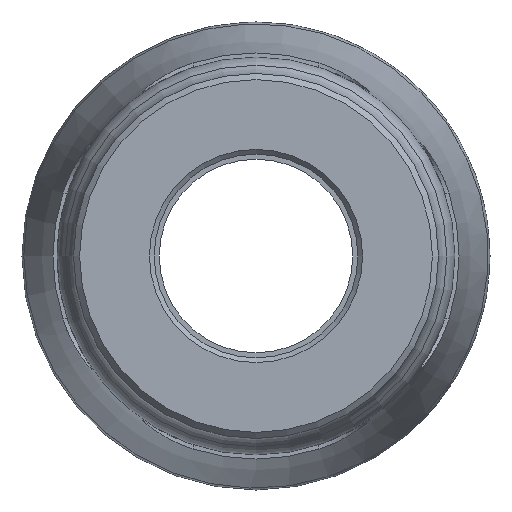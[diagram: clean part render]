
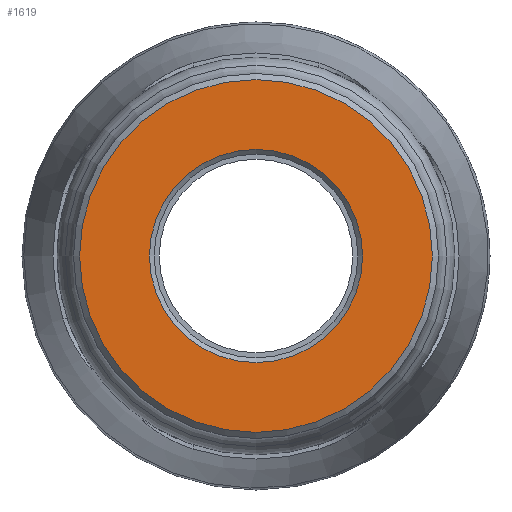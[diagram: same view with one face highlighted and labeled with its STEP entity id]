
A CAD part, left-side view. The second image highlights one B-rep face of the part: STEP entity #1619.
In plain terms, the highlighted planar face has unit normal (-1, 0, 0).
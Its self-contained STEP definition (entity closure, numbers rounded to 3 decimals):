
#29=FACE_BOUND('',#401,.T.);
#212=PLANE('',#1776);
#290=FACE_OUTER_BOUND('',#400,.T.);
#400=EDGE_LOOP('',(#1219));
#401=EDGE_LOOP('',(#1220));
#542=CIRCLE('',#1775,23.453);
#543=CIRCLE('',#1777,38.825);
#728=VERTEX_POINT('',#2926);
#729=VERTEX_POINT('',#2929);
#910=EDGE_CURVE('',#728,#728,#542,.T.);
#911=EDGE_CURVE('',#729,#729,#543,.T.);
#1219=ORIENTED_EDGE('',*,*,#911,.F.);
#1220=ORIENTED_EDGE('',*,*,#910,.F.);
#1619=ADVANCED_FACE('',(#290,#29),#212,.T.);
#1775=AXIS2_PLACEMENT_3D('',#2927,#2067,#2068);
#1776=AXIS2_PLACEMENT_3D('',#2928,#2069,#2070);
#1777=AXIS2_PLACEMENT_3D('',#2930,#2071,#2072);
#2067=DIRECTION('center_axis',(-1.,0.,0.));
#2068=DIRECTION('ref_axis',(0.,-1.,0.));
#2069=DIRECTION('center_axis',(-1.,0.,0.));
#2070=DIRECTION('ref_axis',(0.,0.,1.));
#2071=DIRECTION('center_axis',(1.,0.,0.));
#2072=DIRECTION('ref_axis',(0.,-1.,0.));
#2926=CARTESIAN_POINT('',(0.,23.453,0.));
#2927=CARTESIAN_POINT('Origin',(0.,0.,0.));
#2928=CARTESIAN_POINT('Origin',(0.,40.17,0.));
#2929=CARTESIAN_POINT('',(0.,38.825,0.));
#2930=CARTESIAN_POINT('Origin',(0.,0.,0.));
